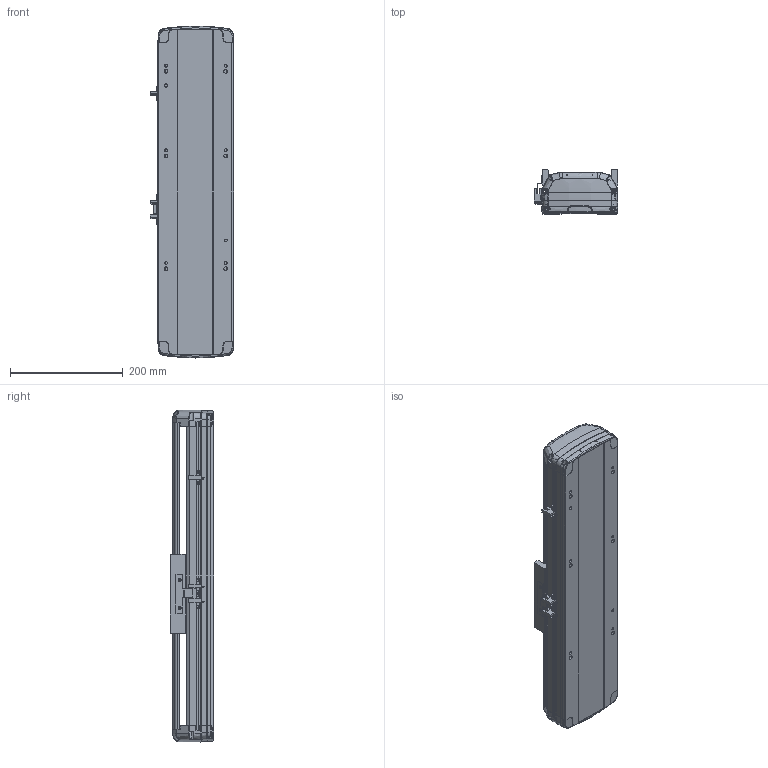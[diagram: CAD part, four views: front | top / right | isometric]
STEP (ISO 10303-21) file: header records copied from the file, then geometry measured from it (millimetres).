
FILE_DESCRIPTION (( 'STEP AP214' ), '1' );
FILE_NAME ('RTH14-XX-200-B-M20-C4.STEP', '2025-10-25T02:18:20', ( 'Microsoft' ), ( 'Microsoft' ), 'SwSTEP 2.0', 'SolidWorks 2018', '' );
FILE_SCHEMA (( 'AUTOMOTIVE_DESIGN' ));
Length unit declared in the file: millimetre
Products named in the file (7): RTH14-XX-200-B-M20-C4; N_RTH14-B-011P菁釱^RTH14-XX-XX-B-M20-C4; N_RTH14-GY-001P^RTH14-XX-XX-B-M20-C4; N_RTH13-L-012感应片（外置）^RTH14-XX-XX-B-M20-C4; N_OMRON EE-SX672 传感器^RTH14-XX-XX-B-M20-C4; N_RTH14-R-004-SFSR16賑釱^RTH14-XX-XX-B-M20-C4; N_RTH14-B-007奻裔^RTH14-XX-XX-B-M20-C4
Assembly tree (9 placements, depth 2):
  RTH14-XX-200-B-M20-C4
    N_RTH14-B-011P菁釱^RTH14-XX-XX-B-M20-C4
    N_RTH14-B-007奻裔^RTH14-XX-XX-B-M20-C4
    N_RTH13-L-012感应片（外置）^RTH14-XX-XX-B-M20-C4
    N_OMRON EE-SX672 传感器^RTH14-XX-XX-B-M20-C4  x3
    N_RTH14-R-004-SFSR16賑釱^RTH14-XX-XX-B-M20-C4
    N_RTH14-GY-001P^RTH14-XX-XX-B-M20-C4  x2
Bounding box: 148.5 x 78.03 x 588.99 mm (x, y, z)
Volume: 2592229.1 mm3; surface area: 612589.2 mm2
Topology: 9 solids, 9 shells, 1882 faces, 5296 edges, 3446 vertices
Faces by surface type: plane 971, bspline 450, cylinder 397, cone 56, torus 8
Entity records: 45288 total; most frequent: CARTESIAN_POINT 20538, ORIENTED_EDGE 5608, DIRECTION 4047, EDGE_CURVE 2804, VERTEX_POINT 1832, LINE 1595, VECTOR 1595, AXIS2_PLACEMENT_3D 1226
